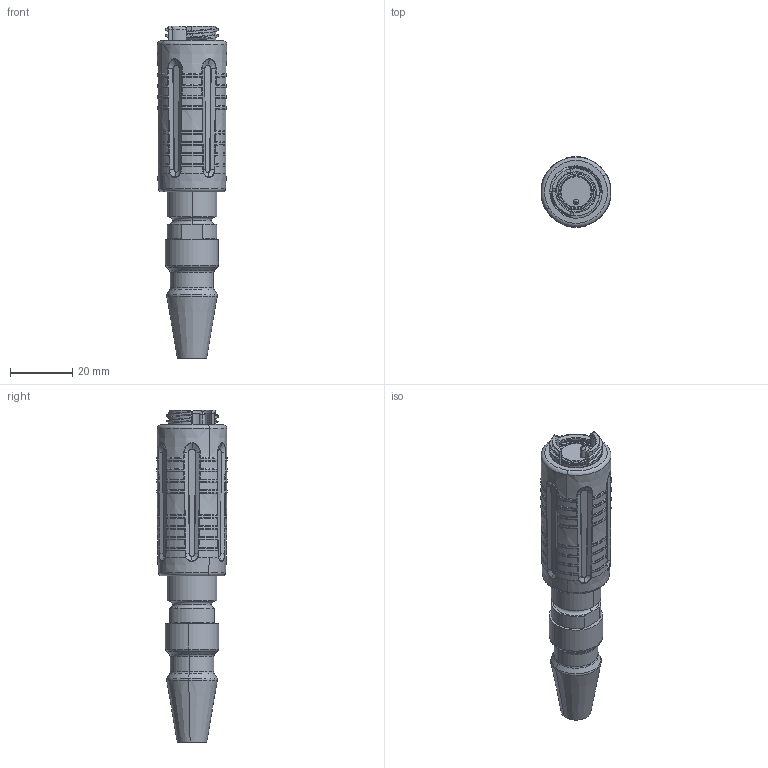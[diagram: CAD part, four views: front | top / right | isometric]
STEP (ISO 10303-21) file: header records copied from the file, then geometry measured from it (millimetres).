
FILE_DESCRIPTION (( 'STEP AP214' ), '1' );
FILE_NAME ('QMICRO-PHHX-XXXX-S95.STEP', '2025-05-02T23:43:36', ( '' ), ( '' ), 'SwSTEP 2.0', 'SolidWorks 2024', '' );
FILE_SCHEMA (( 'AUTOMOTIVE_DESIGN' ));
Length unit declared in the file: inch
Products named in the file (1): QMICRO-PHHX-XXXX-S95
Bounding box: 22.5 x 22.71 x 106.75 mm (x, y, z)
Volume: 24950.4 mm3; surface area: 9271.2 mm2
Topology: 1 solids, 2 shells, 969 faces, 2500 edges, 1542 vertices
Faces by surface type: bspline 490, cone 168, torus 163, cylinder 71, plane 55, sphere 22
Entity records: 41786 total; most frequent: CARTESIAN_POINT 22694, ORIENTED_EDGE 4992, DIRECTION 2793, EDGE_CURVE 2496, VERTEX_POINT 1542, B_SPLINE_CURVE_WITH_KNOTS 1332, AXIS2_PLACEMENT_3D 1309, EDGE_LOOP 982
